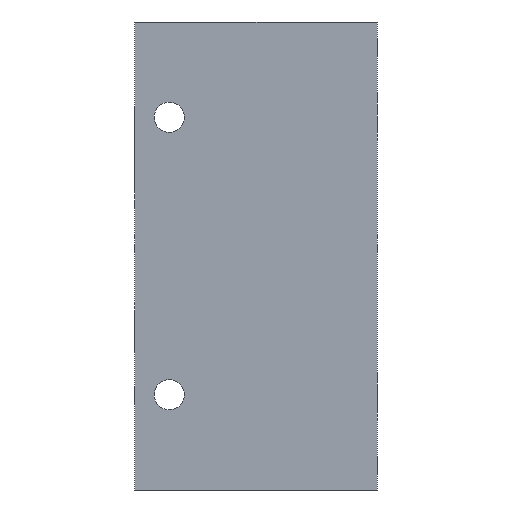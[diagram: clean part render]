
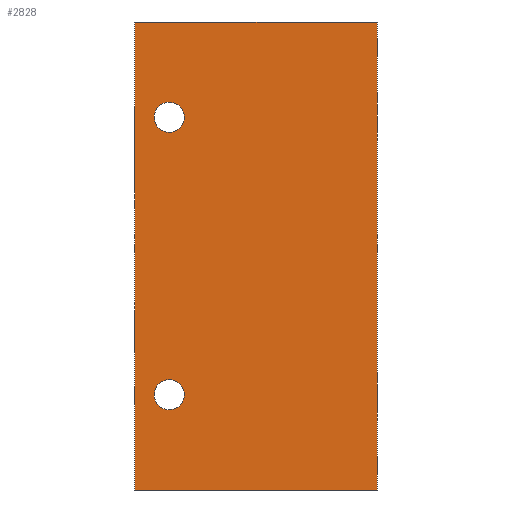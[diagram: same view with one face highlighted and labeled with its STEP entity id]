
A CAD part, front view. The second image highlights one B-rep face of the part: STEP entity #2828.
In plain terms, the highlighted planar face has unit normal (0, -1, 0).
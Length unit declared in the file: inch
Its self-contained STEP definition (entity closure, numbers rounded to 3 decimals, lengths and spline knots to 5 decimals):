
#133=FACE_BOUND('',#698,.T.);
#134=FACE_BOUND('',#699,.T.);
#135=FACE_BOUND('',#700,.T.);
#230=CIRCLE('',#2990,0.109);
#232=CIRCLE('',#2993,0.109);
#698=EDGE_LOOP('',(#2353));
#699=EDGE_LOOP('',(#2354));
#700=EDGE_LOOP('',(#2355,#2356,#2357,#2358));
#1030=LINE('',#4943,#1192);
#1034=LINE('',#4960,#1196);
#1035=LINE('',#5191,#1197);
#1037=LINE('',#5194,#1199);
#1192=VECTOR('',#3427,1.75);
#1196=VECTOR('',#3443,1.75);
#1197=VECTOR('',#3548,3.375);
#1199=VECTOR('',#3552,3.375);
#1385=VERTEX_POINT('',#4937);
#1387=VERTEX_POINT('',#4941);
#1392=VERTEX_POINT('',#4954);
#1394=VERTEX_POINT('',#4958);
#1409=VERTEX_POINT('',#5148);
#1411=VERTEX_POINT('',#5153);
#1721=EDGE_CURVE('',#1385,#1387,#1030,.T.);
#1728=EDGE_CURVE('',#1392,#1394,#1034,.T.);
#1745=EDGE_CURVE('',#1409,#1409,#230,.T.);
#1747=EDGE_CURVE('',#1411,#1411,#232,.T.);
#1759=EDGE_CURVE('',#1392,#1387,#1035,.T.);
#1761=EDGE_CURVE('',#1394,#1385,#1037,.T.);
#2353=ORIENTED_EDGE('',*,*,#1745,.T.);
#2354=ORIENTED_EDGE('',*,*,#1747,.T.);
#2355=ORIENTED_EDGE('',*,*,#1728,.T.);
#2356=ORIENTED_EDGE('',*,*,#1761,.T.);
#2357=ORIENTED_EDGE('',*,*,#1721,.T.);
#2358=ORIENTED_EDGE('',*,*,#1759,.F.);
#2534=PLANE('',#3019);
#2828=ADVANCED_FACE('',(#133,#134,#135),#2534,.T.);
#2990=AXIS2_PLACEMENT_3D('',#5149,#3490,#3491);
#2993=AXIS2_PLACEMENT_3D('',#5154,#3496,#3497);
#3019=AXIS2_PLACEMENT_3D('',#5193,#3550,#3551);
#3427=DIRECTION('',(1.,0.,0.));
#3443=DIRECTION('',(-1.,0.,0.));
#3490=DIRECTION('center_axis',(0.,1.,0.));
#3491=DIRECTION('ref_axis',(1.,0.,0.));
#3496=DIRECTION('center_axis',(0.,1.,0.));
#3497=DIRECTION('ref_axis',(1.,0.,0.));
#3548=DIRECTION('',(0.,0.,-1.));
#3550=DIRECTION('center_axis',(0.,-1.,0.));
#3551=DIRECTION('ref_axis',(0.,0.,-1.));
#3552=DIRECTION('',(0.,0.,-1.));
#4937=CARTESIAN_POINT('',(-0.875,-0.5,-1.6875));
#4941=CARTESIAN_POINT('',(0.875,-0.5,-1.6875));
#4943=CARTESIAN_POINT('',(0.875,-0.5,-1.6875));
#4954=CARTESIAN_POINT('',(0.875,-0.5,1.6875));
#4958=CARTESIAN_POINT('',(-0.875,-0.5,1.6875));
#4960=CARTESIAN_POINT('',(0.875,-0.5,1.6875));
#5148=CARTESIAN_POINT('',(-0.734,-0.5,1.));
#5149=CARTESIAN_POINT('Origin',(-0.625,-0.5,1.));
#5153=CARTESIAN_POINT('',(-0.734,-0.5,-1.));
#5154=CARTESIAN_POINT('Origin',(-0.625,-0.5,-1.));
#5191=CARTESIAN_POINT('',(0.875,-0.5,0.));
#5193=CARTESIAN_POINT('Origin',(0.875,-0.5,0.));
#5194=CARTESIAN_POINT('',(-0.875,-0.5,0.));
